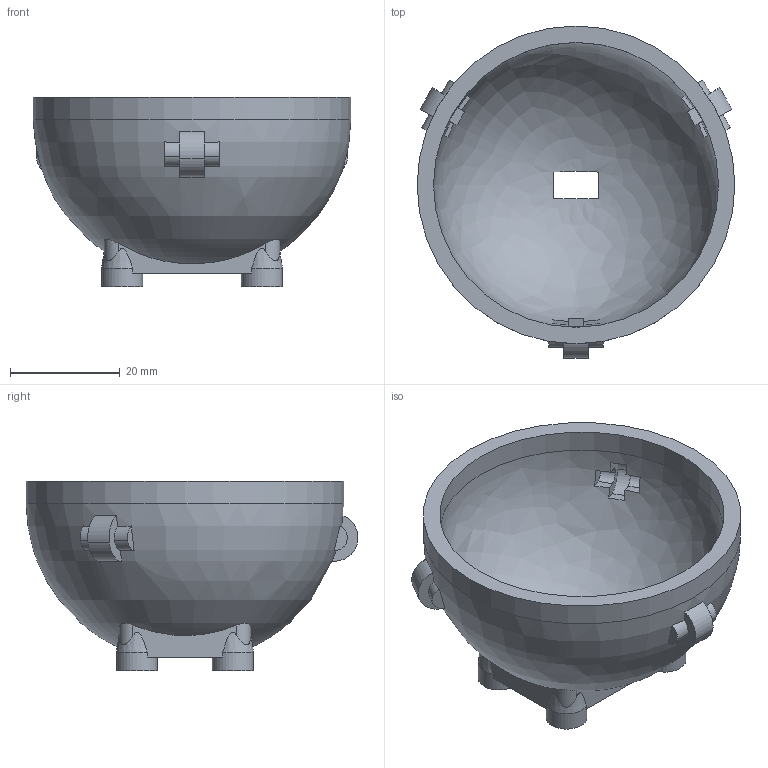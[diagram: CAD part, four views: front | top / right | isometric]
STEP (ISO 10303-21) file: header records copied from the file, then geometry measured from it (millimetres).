
FILE_DESCRIPTION(('Open CASCADE Model'),'2;1');
FILE_NAME('Open CASCADE Shape Model','2026-06-04T07:57:16',('Author'),( 'Open CASCADE'),'Open CASCADE STEP processor 7.6','Open CASCADE 7.6' ,'Unknown');
FILE_SCHEMA(('AP242_MANAGED_MODEL_BASED_3D_ENGINEERING_MIM_LF. {1 0 10303 442 1 1 4 }'));
Length unit declared in the file: millimetre
Products named in the file (1): Open CASCADE STEP translator 7.6 1
Bounding box: 58 x 60.58 x 34.6 mm (x, y, z)
Volume: 17445.2 mm3; surface area: 12912.4 mm2
Topology: 1 solids, 1 shells, 125 faces, 336 edges, 224 vertices
Faces by surface type: plane 61, extrusion 36, cylinder 18, bspline 4, cone 4, revolution 2
Full cylindrical faces by diameter (mm): 3.5 x4, 7.5 x4, 52 x1, 58 x1
Entity records: 19137 total; most frequent: CARTESIAN_POINT 12827, DIRECTION 1020, ORIENTED_EDGE 672, PCURVE 672, DEFINITIONAL_REPRESENTATION 672, VECTOR 506, LINE 470, B_SPLINE_CURVE_WITH_KNOTS 356
